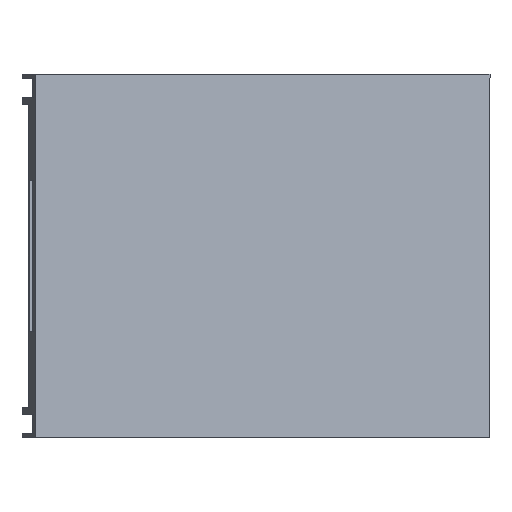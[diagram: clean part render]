
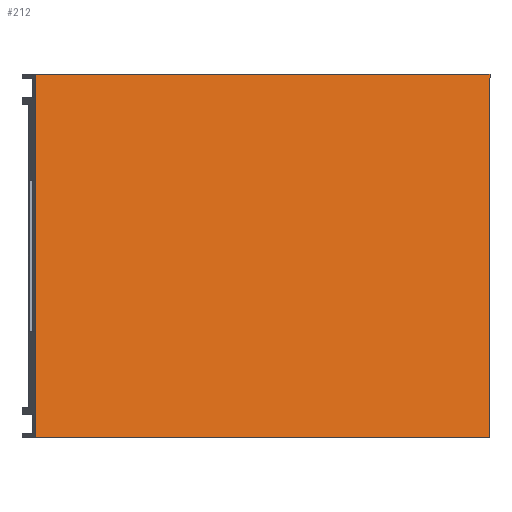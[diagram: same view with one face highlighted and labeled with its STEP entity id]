
A CAD part, front view. The second image highlights one B-rep face of the part: STEP entity #212.
In plain terms, the highlighted planar face has unit normal (0.479, -0.878, 0).
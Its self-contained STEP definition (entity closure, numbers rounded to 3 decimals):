
#212=ADVANCED_FACE('',(#812),#814,.T.);
#812=FACE_BOUND('',#813,.T.);
#813=EDGE_LOOP('',(#1292,#1293,#1294,#1295));
#814=PLANE('',#815);
#815=AXIS2_PLACEMENT_3D('',#816,#817,#818);
#816=CARTESIAN_POINT('',(-234.877,-149.482,0.));
#817=DIRECTION('',(0.479,-0.878,0.));
#818=DIRECTION('',(0.878,0.479,0.));
#1292=ORIENTED_EDGE('',*,*,#1653,.T.);
#1293=ORIENTED_EDGE('',*,*,#1654,.T.);
#1294=ORIENTED_EDGE('',*,*,#1606,.T.);
#1295=ORIENTED_EDGE('',*,*,#1635,.F.);
#1606=EDGE_CURVE('',#1819,#1817,#1820,.T.);
#1635=EDGE_CURVE('',#1868,#1817,#1870,.T.);
#1653=EDGE_CURVE('',#1868,#1899,#1900,.F.);
#1654=EDGE_CURVE('',#1899,#1819,#1901,.T.);
#1817=VERTEX_POINT('',#2177);
#1819=VERTEX_POINT('',#2181);
#1820=LINE('',#2182,#2183);
#1868=VERTEX_POINT('',#2287);
#1870=LINE('',#2291,#2292);
#1899=VERTEX_POINT('',#2356);
#1900=LINE('',#2357,#2358);
#1901=LINE('',#2360,#2361);
#2177=CARTESIAN_POINT('',(2.,-20.187,96.));
#2181=CARTESIAN_POINT('',(2.,-20.187,0.));
#2182=CARTESIAN_POINT('',(2.,-20.187,0.));
#2183=VECTOR('',#2184,1.);
#2184=DIRECTION('',(0.,0.,1.));
#2287=CARTESIAN_POINT('',(-118.015,-85.695,96.));
#2291=CARTESIAN_POINT('',(-118.015,-85.695,96.));
#2292=VECTOR('',#2293,1.);
#2293=DIRECTION('',(0.878,0.479,0.));
#2356=CARTESIAN_POINT('',(-118.015,-85.695,0.));
#2357=CARTESIAN_POINT('',(-118.015,-85.695,0.));
#2358=VECTOR('',#2359,1.);
#2359=DIRECTION('',(0.,0.,1.));
#2360=CARTESIAN_POINT('',(-118.015,-85.695,0.));
#2361=VECTOR('',#2362,1.);
#2362=DIRECTION('',(0.878,0.479,0.));
